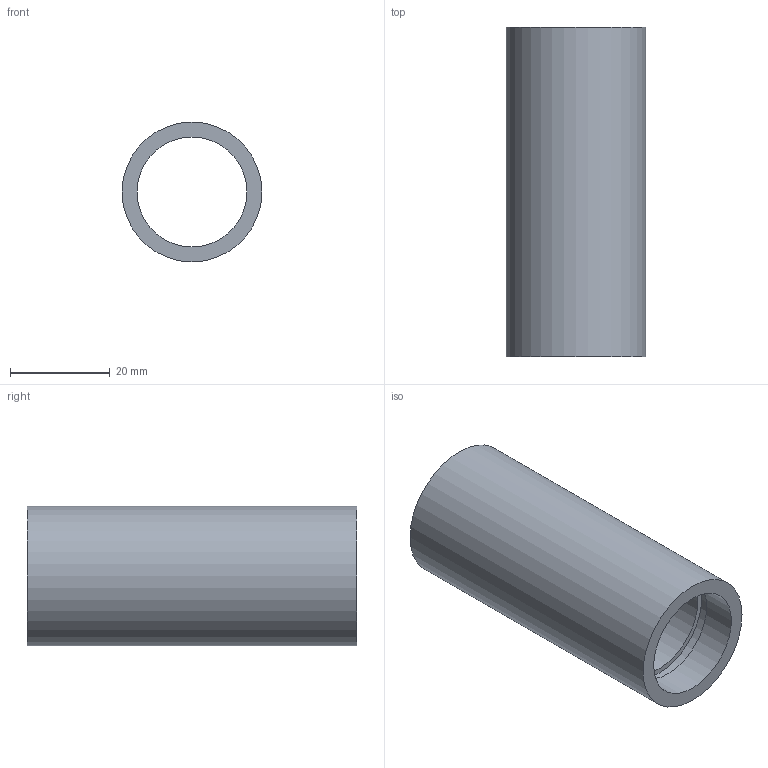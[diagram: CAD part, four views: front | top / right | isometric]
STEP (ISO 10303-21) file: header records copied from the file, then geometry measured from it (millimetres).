
FILE_DESCRIPTION(('FreeCAD Model'),'2;1');
FILE_NAME('Open CASCADE Shape Model','2026-10-19T19:41:49',('FreeCAD'),( 'FreeCAD'),'Open CASCADE STEP processor 7.8','FreeCAD','Unknown');
FILE_SCHEMA(('AUTOMOTIVE_DESIGN { 1 0 10303 214 1 1 1 1 }'));
Length unit declared in the file: millimetre
Products named in the file (1): Open CASCADE STEP translator 7.8 13
Bounding box: 28 x 66 x 28 mm (x, y, z)
Volume: 15360.8 mm3; surface area: 11007.1 mm2
Topology: 1 solids, 1 shells, 8 faces, 12 edges, 8 vertices
Faces by surface type: cylinder 4, plane 4
Full cylindrical faces by diameter (mm): 22 x2, 24.1 x1, 28 x1
Entity records: 198 total; most frequent: DIRECTION 38, CARTESIAN_POINT 29, ORIENTED_EDGE 24, AXIS2_PLACEMENT_3D 17, FACE_BOUND 12, EDGE_LOOP 12, EDGE_CURVE 12, ADVANCED_FACE 8
